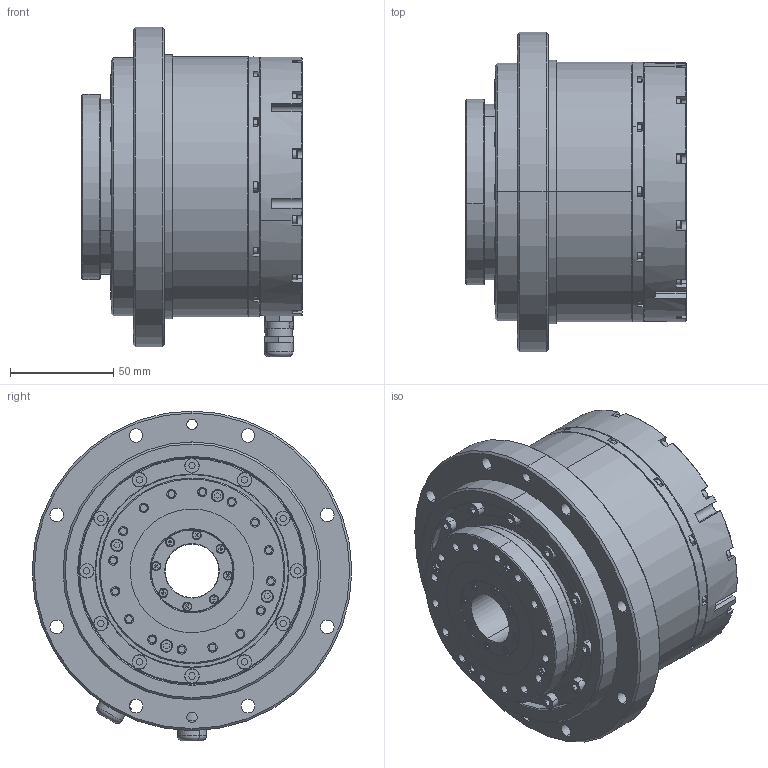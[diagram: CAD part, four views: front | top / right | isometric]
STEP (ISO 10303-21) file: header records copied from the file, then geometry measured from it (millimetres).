
FILE_DESCRIPTION (( 'STEP AP214' ), '1' );
FILE_NAME ('KAT-25CM3NS 軞蚾饜芞.STEP', '2022-05-05T02:40:54', ( 'Admin' ), ( '' ), 'SwSTEP 2.0', 'SolidWorks 2020', '' );
FILE_SCHEMA (( 'AUTOMOTIVE_DESIGN' ));
Length unit declared in the file: millimetre
Products named in the file (1): KAT-25CM3NS 軞蚾饜芞
Bounding box: 107 x 155 x 160 mm (x, y, z)
Volume: 519929 mm3; surface area: 246837.3 mm2
Topology: 73 solids, 73 shells, 2336 faces, 5627 edges, 3527 vertices
Faces by surface type: plane 854, cylinder 772, torus 286, cone 280, sphere 144
Entity records: 99402 total; most frequent: CARTESIAN_POINT 16871, DIRECTION 12438, ORIENTED_EDGE 11186, EDGE_CURVE 5593, AXIS2_PLACEMENT_3D 5022, VERTEX_POINT 3527, EDGE_LOOP 2850, CIRCLE 2685
